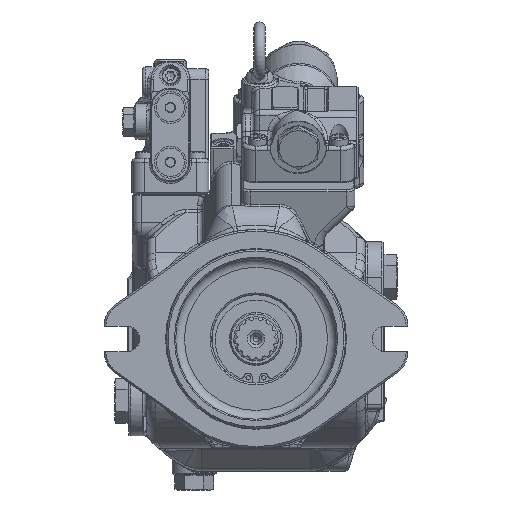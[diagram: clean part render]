
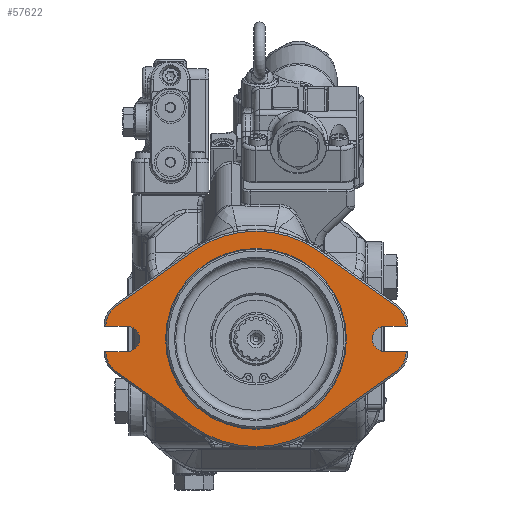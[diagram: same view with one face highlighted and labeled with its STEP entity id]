
A CAD part, front view. The second image highlights one B-rep face of the part: STEP entity #57622.
In plain terms, the highlighted planar face has unit normal (0, -1, 0).
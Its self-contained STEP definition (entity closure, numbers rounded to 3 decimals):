
#1455=FACE_BOUND('',#10831,.T.);
#7201=FACE_OUTER_BOUND('',#10830,.T.);
#10830=EDGE_LOOP('',(#50438,#50439,#50440,#50441,#50442,#50443,#50444,#50445,
#50446,#50447,#50448,#50449,#50450,#50451,#50452,#50453,#50454,#50455,#50456,
#50457));
#10831=EDGE_LOOP('',(#50458));
#13557=CIRCLE('',#62797,7.15);
#13567=CIRCLE('',#62825,7.15);
#13568=CIRCLE('',#62828,14.);
#13569=CIRCLE('',#62829,61.);
#13570=CIRCLE('',#62830,14.);
#13571=CIRCLE('',#62831,14.);
#13572=CIRCLE('',#62832,61.);
#13573=CIRCLE('',#62833,14.);
#13574=CIRCLE('',#62834,51.2);
#17505=LINE('',#114173,#21560);
#17517=LINE('',#114203,#21572);
#17526=LINE('',#114264,#21581);
#17541=LINE('',#114313,#21596);
#17548=LINE('',#114328,#21603);
#17549=LINE('',#114331,#21604);
#17550=LINE('',#114335,#21605);
#17551=LINE('',#114339,#21606);
#17552=LINE('',#114342,#21607);
#17553=LINE('',#114344,#21608);
#17554=LINE('',#114348,#21609);
#17555=LINE('',#114352,#21610);
#21560=VECTOR('',#76319,10.);
#21572=VECTOR('',#76345,10.);
#21581=VECTOR('',#76374,10.);
#21596=VECTOR('',#76419,10.);
#21603=VECTOR('',#76432,10.);
#21604=VECTOR('',#76435,10.);
#21605=VECTOR('',#76438,10.);
#21606=VECTOR('',#76441,10.);
#21607=VECTOR('',#76444,10.);
#21608=VECTOR('',#76445,10.);
#21609=VECTOR('',#76448,10.);
#21610=VECTOR('',#76451,10.);
#26670=VERTEX_POINT('',#114170);
#26671=VERTEX_POINT('',#114172);
#26679=VERTEX_POINT('',#114193);
#26682=VERTEX_POINT('',#114201);
#26692=VERTEX_POINT('',#114263);
#26710=VERTEX_POINT('',#114310);
#26711=VERTEX_POINT('',#114312);
#26713=VERTEX_POINT('',#114318);
#26716=VERTEX_POINT('',#114326);
#26717=VERTEX_POINT('',#114330);
#26718=VERTEX_POINT('',#114332);
#26719=VERTEX_POINT('',#114334);
#26720=VERTEX_POINT('',#114336);
#26721=VERTEX_POINT('',#114338);
#26722=VERTEX_POINT('',#114340);
#26723=VERTEX_POINT('',#114343);
#26724=VERTEX_POINT('',#114345);
#26725=VERTEX_POINT('',#114347);
#26726=VERTEX_POINT('',#114349);
#26727=VERTEX_POINT('',#114351);
#26728=VERTEX_POINT('',#114354);
#34679=EDGE_CURVE('',#26671,#26670,#17505,.T.);
#34691=EDGE_CURVE('',#26670,#26679,#13557,.T.);
#34695=EDGE_CURVE('',#26679,#26682,#17517,.T.);
#34710=EDGE_CURVE('',#26671,#26692,#17526,.T.);
#34734=EDGE_CURVE('',#26711,#26710,#17541,.T.);
#34738=EDGE_CURVE('',#26710,#26713,#13567,.T.);
#34742=EDGE_CURVE('',#26713,#26716,#17548,.T.);
#34743=EDGE_CURVE('',#26717,#26682,#17549,.T.);
#34744=EDGE_CURVE('',#26718,#26717,#13568,.T.);
#34745=EDGE_CURVE('',#26719,#26718,#17550,.T.);
#34746=EDGE_CURVE('',#26720,#26719,#13569,.T.);
#34747=EDGE_CURVE('',#26721,#26720,#17551,.T.);
#34748=EDGE_CURVE('',#26722,#26721,#13570,.T.);
#34749=EDGE_CURVE('',#26711,#26722,#17552,.T.);
#34750=EDGE_CURVE('',#26723,#26716,#17553,.T.);
#34751=EDGE_CURVE('',#26724,#26723,#13571,.T.);
#34752=EDGE_CURVE('',#26725,#26724,#17554,.T.);
#34753=EDGE_CURVE('',#26726,#26725,#13572,.T.);
#34754=EDGE_CURVE('',#26727,#26726,#17555,.T.);
#34755=EDGE_CURVE('',#26692,#26727,#13573,.T.);
#34756=EDGE_CURVE('',#26728,#26728,#13574,.T.);
#50438=ORIENTED_EDGE('',*,*,#34695,.T.);
#50439=ORIENTED_EDGE('',*,*,#34743,.F.);
#50440=ORIENTED_EDGE('',*,*,#34744,.F.);
#50441=ORIENTED_EDGE('',*,*,#34745,.F.);
#50442=ORIENTED_EDGE('',*,*,#34746,.F.);
#50443=ORIENTED_EDGE('',*,*,#34747,.F.);
#50444=ORIENTED_EDGE('',*,*,#34748,.F.);
#50445=ORIENTED_EDGE('',*,*,#34749,.F.);
#50446=ORIENTED_EDGE('',*,*,#34734,.T.);
#50447=ORIENTED_EDGE('',*,*,#34738,.T.);
#50448=ORIENTED_EDGE('',*,*,#34742,.T.);
#50449=ORIENTED_EDGE('',*,*,#34750,.F.);
#50450=ORIENTED_EDGE('',*,*,#34751,.F.);
#50451=ORIENTED_EDGE('',*,*,#34752,.F.);
#50452=ORIENTED_EDGE('',*,*,#34753,.F.);
#50453=ORIENTED_EDGE('',*,*,#34754,.F.);
#50454=ORIENTED_EDGE('',*,*,#34755,.F.);
#50455=ORIENTED_EDGE('',*,*,#34710,.F.);
#50456=ORIENTED_EDGE('',*,*,#34679,.T.);
#50457=ORIENTED_EDGE('',*,*,#34691,.T.);
#50458=ORIENTED_EDGE('',*,*,#34756,.F.);
#54615=PLANE('',#62827);
#57622=ADVANCED_FACE('',(#7201,#1455),#54615,.F.);
#62797=AXIS2_PLACEMENT_3D('',#114195,#76338,#76339);
#62825=AXIS2_PLACEMENT_3D('',#114320,#76425,#76426);
#62827=AXIS2_PLACEMENT_3D('',#114329,#76433,#76434);
#62828=AXIS2_PLACEMENT_3D('',#114333,#76436,#76437);
#62829=AXIS2_PLACEMENT_3D('',#114337,#76439,#76440);
#62830=AXIS2_PLACEMENT_3D('',#114341,#76442,#76443);
#62831=AXIS2_PLACEMENT_3D('',#114346,#76446,#76447);
#62832=AXIS2_PLACEMENT_3D('',#114350,#76449,#76450);
#62833=AXIS2_PLACEMENT_3D('',#114353,#76452,#76453);
#62834=AXIS2_PLACEMENT_3D('',#114355,#76454,#76455);
#76319=DIRECTION('',(-1.,0.,0.));
#76338=DIRECTION('center_axis',(0.,1.,0.));
#76339=DIRECTION('ref_axis',(0.,0.,
-1.));
#76345=DIRECTION('',(1.,0.,0.));
#76374=DIRECTION('',(0.,0.,-1.));
#76419=DIRECTION('',(1.,0.,0.));
#76425=DIRECTION('center_axis',(0.,1.,0.));
#76426=DIRECTION('ref_axis',(0.,0.,
-1.));
#76432=DIRECTION('',(-1.,0.,0.));
#76433=DIRECTION('center_axis',(0.,1.,0.));
#76434=DIRECTION('ref_axis',(0.,0.,
1.));
#76435=DIRECTION('',(0.,0.,-1.));
#76436=DIRECTION('center_axis',(0.,1.,0.));
#76437=DIRECTION('ref_axis',(0.888,0.,0.459));
#76438=DIRECTION('',(0.816,0.,-0.579));
#76439=DIRECTION('center_axis',(0.,1.,0.));
#76440=DIRECTION('ref_axis',(0.,0.,
1.));
#76441=DIRECTION('',(0.816,0.,0.579));
#76442=DIRECTION('center_axis',(0.,1.,0.));
#76443=DIRECTION('ref_axis',(-0.888,0.,0.459));
#76444=DIRECTION('',(0.,0.,1.));
#76445=DIRECTION('',(0.,0.,1.));
#76446=DIRECTION('center_axis',(0.,1.,0.));
#76447=DIRECTION('ref_axis',(-0.888,0.,-0.459));
#76448=DIRECTION('',(-0.816,0.,0.579));
#76449=DIRECTION('center_axis',(0.,1.,0.));
#76450=DIRECTION('ref_axis',(0.,0.,
-1.));
#76451=DIRECTION('',(-0.816,0.,-0.579));
#76452=DIRECTION('center_axis',(0.,1.,0.));
#76453=DIRECTION('ref_axis',(0.888,0.,-0.459));
#76454=DIRECTION('center_axis',(0.,-1.,0.));
#76455=DIRECTION('ref_axis',(0.,0.,
-1.));
#114170=CARTESIAN_POINT('',(31.539,-105.639,-9.089));
#114172=CARTESIAN_POINT('',(43.539,-105.639,-9.089));
#114173=CARTESIAN_POINT('',(13.172,-105.639,-9.089));
#114193=CARTESIAN_POINT('',(31.539,-105.639,5.211));
#114195=CARTESIAN_POINT('Origin',(31.539,-105.639,-1.939));
#114201=CARTESIAN_POINT('',(43.539,-105.639,5.211));
#114203=CARTESIAN_POINT('',(-4.961,-105.639,5.211));
#114263=CARTESIAN_POINT('',(43.539,-105.639,-9.19));
#114264=CARTESIAN_POINT('',(43.539,-105.639,54.101));
#114310=CARTESIAN_POINT('',(-114.461,-105.639,5.211));
#114312=CARTESIAN_POINT('',(-126.461,-105.639,5.211));
#114313=CARTESIAN_POINT('',(-77.961,-105.639,5.211));
#114318=CARTESIAN_POINT('',(-114.461,-105.639,-9.089));
#114320=CARTESIAN_POINT('Origin',(-114.461,-105.639,-1.939));
#114326=CARTESIAN_POINT('',(-126.461,-105.639,-9.089));
#114328=CARTESIAN_POINT('',(-96.094,-105.639,-9.089));
#114329=CARTESIAN_POINT('Origin',(-41.461,-105.639,88.642));
#114330=CARTESIAN_POINT('',(43.539,-105.639,5.312));
#114331=CARTESIAN_POINT('',(43.539,-105.639,54.101));
#114332=CARTESIAN_POINT('',(37.64,-105.639,16.729));
#114333=CARTESIAN_POINT('Origin',(29.539,-105.639,5.312));
#114334=CARTESIAN_POINT('',(-6.161,-105.639,47.809));
#114335=CARTESIAN_POINT('',(-21.849,-105.639,58.941));
#114336=CARTESIAN_POINT('',(-76.761,-105.639,47.809));
#114337=CARTESIAN_POINT('Origin',(-41.461,-105.639,-1.939));
#114338=CARTESIAN_POINT('',(-120.563,-105.639,16.729));
#114339=CARTESIAN_POINT('',(-48.543,-105.639,67.832));
#114340=CARTESIAN_POINT('',(-126.461,-105.639,5.312));
#114341=CARTESIAN_POINT('Origin',(-112.461,-105.639,5.312));
#114342=CARTESIAN_POINT('',(-126.461,-105.639,61.601));
#114343=CARTESIAN_POINT('',(-126.461,-105.639,-9.19));
#114344=CARTESIAN_POINT('',(-126.461,-105.639,61.601));
#114345=CARTESIAN_POINT('',(-120.563,-105.639,-20.608));
#114346=CARTESIAN_POINT('Origin',(-112.461,-105.639,-9.19));
#114347=CARTESIAN_POINT('',(-76.761,-105.639,-51.688));
#114348=CARTESIAN_POINT('',(-117.509,-105.639,-22.775));
#114349=CARTESIAN_POINT('',(-6.161,-105.639,-51.688));
#114350=CARTESIAN_POINT('Origin',(-41.461,-105.639,-1.939));
#114351=CARTESIAN_POINT('',(37.64,-105.639,-20.608));
#114352=CARTESIAN_POINT('',(22.057,-105.639,-31.666));
#114353=CARTESIAN_POINT('Origin',(29.539,-105.639,-9.19));
#114354=CARTESIAN_POINT('',(-41.461,-105.639,49.261));
#114355=CARTESIAN_POINT('Origin',(-41.461,-105.639,-1.939));
